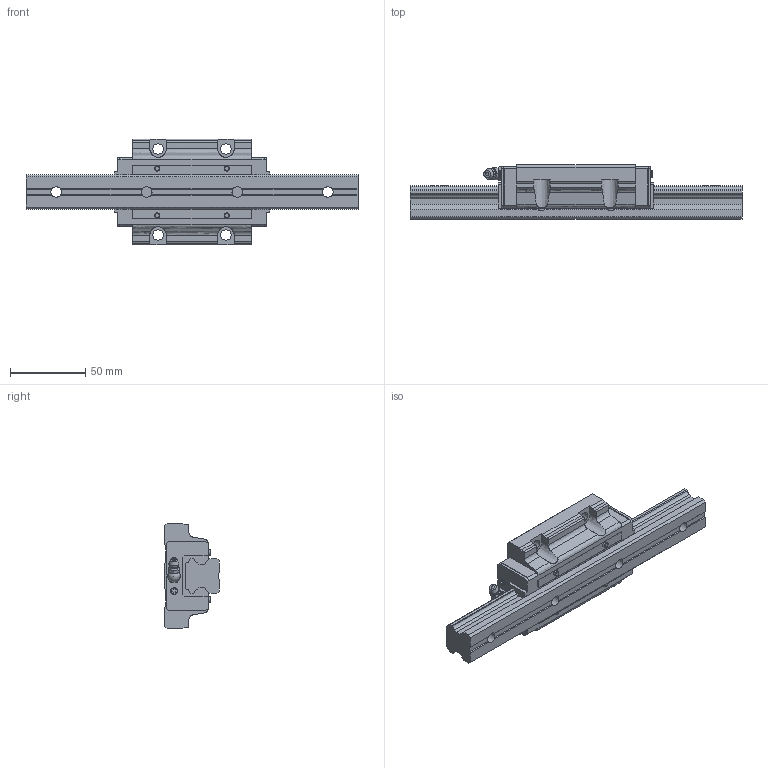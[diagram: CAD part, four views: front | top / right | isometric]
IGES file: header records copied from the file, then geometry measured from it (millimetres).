
Start section: Data from Parasolid IGES Translator 26.0.171, Copyright(c) 2006 Siemens PLM Software. All Rights Reserved.
Global section: file name: HSR25M1LB1SS-220L_G20_0_B-M6F_58-5_0_0_0.igs; native system: By Siemens PLM Incorporated; preprocessor: XPlus GENERIC/IGES 26.0.171; author: Noname; organization: Noname; date: 20240523.061743; units: millimetre
Bounding box: 220 x 36 x 70 mm (x, y, z)
Surface area: 49836.8 mm2 (no closed solid volume)
Topology: 0 solids, 0 shells, 307 faces, 1680 edges, 1617 vertices
Faces by surface type: extrusion 226, revolution 81
